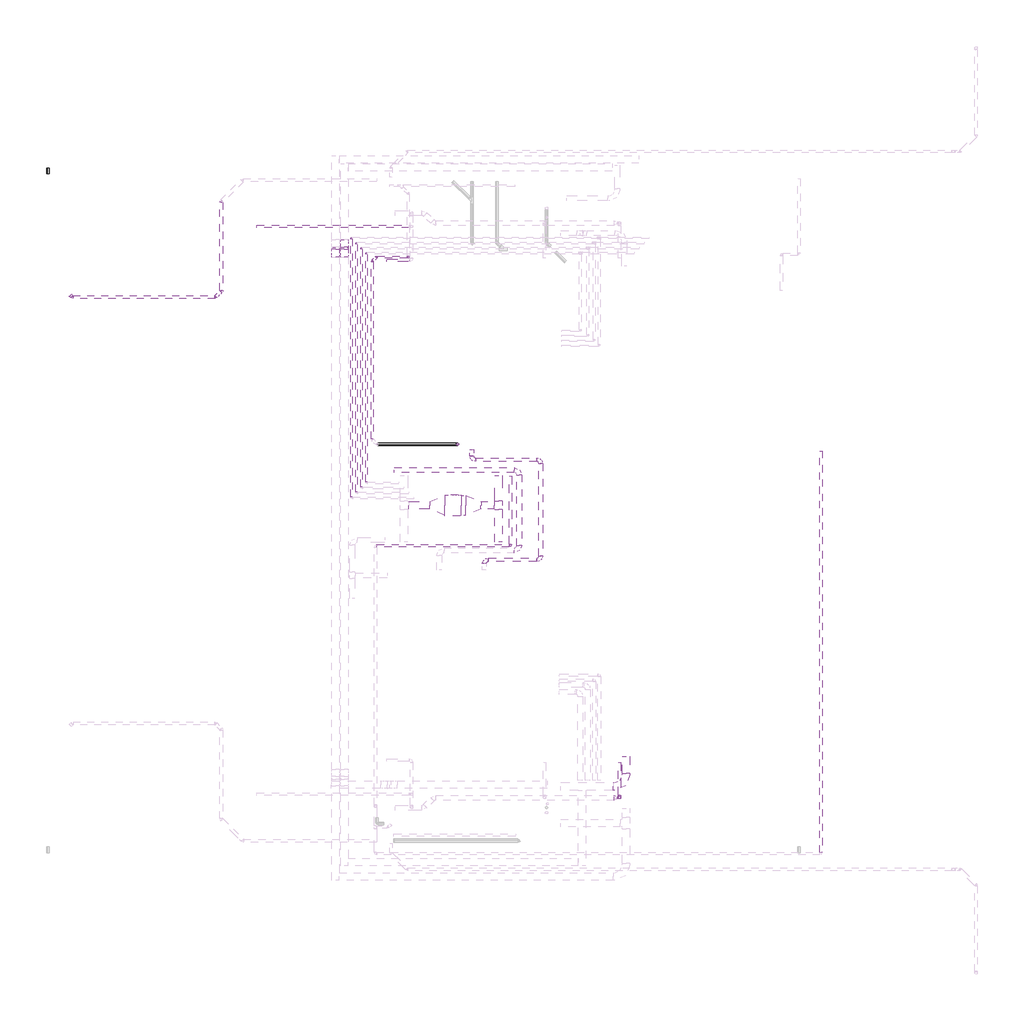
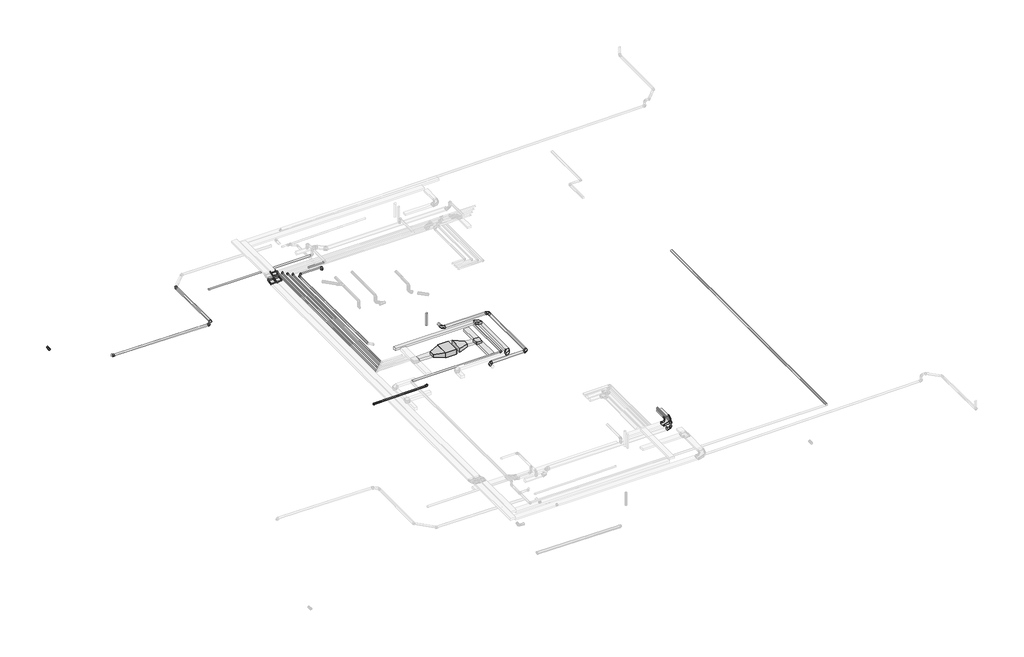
# One storey, part 3 of 5: 18 pipe segments, 15 duct segments, 14 pipe fittings, 12 duct fittings, 4 cable carrier fittings, 3 cable carrier segments, 1 proxy.
"""IFC4 building model written with IfcOpenShell, lengths in millimetres."""

from ifc_helpers import new_model, si_unit, point, frame, frame_2d, origin, place, context, project, spatial, polyline, circle_curve, trimmed, segment, composite_curve, outline, extrude, transform, mapped, element, save
from components import fc01_db58e849, m_codo_horizontal_de_canal_el_5b0e7b07, m_codo_vertical_exterior_de_canal_el_c4dc7364, m_codo_vertical_interior_de_canal_el_3f65be50, duct_fitting_9d984206, duct_fitting_e8ecb067, duct_fitting_4802cc83, ext_95de42ea, m_codo_rectangular_radio_apt_1_w_a605e9b7, m_codo_redondo_ext_1_d_fe658834, m_codo_redondo_ext_1_d_96ea52f9, pipe_fitting_b994c117, pipe_fitting_688cd524, pipe_fitting_a8c499ec, pipe_fitting_3a68447e, pipe_fitting_87aeffad, pipe_fitting_022dd2a5, pipe_fitting_850c79cb

model = new_model("IFC4")

# Units and contexts
model_context = context("Model", 3, world=origin())
ifc_project = project(units=[si_unit("LENGTHUNIT", "METRE", prefix="MILLI")], contexts=[model_context])

# Site, building, storey
site = spatial("IfcSite", under=ifc_project)
building = spatial("IfcBuilding", under=site)
storey = spatial("IfcBuildingStorey", under=building, Name="Nivell 01 P01_PP", Elevation=11160.0)

# Proxy
placement = place(None, origin())
fc01_shape = fc01_db58e849(model_context)
element("IfcBuildingElementProxy", 1, Name="ARC_MDL_ME_UI_FC_ConducteSostre : FC01", ObjectType="ARC_MDL_ME_UI_FC_ConducteSostre : FC01", at=placement, inside=storey, context=model_context, shape_type="MappedRepresentation", body=[
    mapped(fc01_shape, transform((9681.3112506, -4290.0827616, 14269.6198525), x_axis=(-5.108879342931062e-05, -0.9999999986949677, 0.0), y_axis=(0.9999999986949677, -5.108879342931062e-05, 0.0), z_axis=(0.0, 0.0, 1.0))),
])

# Cable carrier fittings
m_codo_horizontal_de_canal_el_shape = m_codo_horizontal_de_canal_el_5b0e7b07(model_context)
element("IfcCableCarrierFitting", 2, ObjectType="M_Codo horizontal de canal : EL", at=placement, inside=storey, context=model_context, shape_type="MappedRepresentation", body=[
    mapped(m_codo_horizontal_de_canal_el_shape, transform((16614.6624278, -15521.1304394, 14260.0), x_axis=(1.0, 0.0, 0.0), y_axis=(0.0, 1.0, 0.0), z_axis=(0.0, 0.0, 1.0))),
])
m_codo_vertical_exterior_de_canal_el_shape = m_codo_vertical_exterior_de_canal_el_c4dc7364(model_context)
element("IfcCableCarrierFitting", 3, ObjectType="M_Codo vertical exterior de canal : EL", at=placement, inside=storey, context=model_context, shape_type="MappedRepresentation", body=[
    mapped(m_codo_vertical_exterior_de_canal_el_shape, transform((5357.0671065, 6149.6159499, 14460.0), x_axis=(0.0, -1.0, 0.0), y_axis=(0.0, 0.0, -1.0), z_axis=(1.0, 0.0, 0.0))),
])
m_codo_vertical_interior_de_canal_el_shape = m_codo_vertical_interior_de_canal_el_3f65be50(model_context)
element("IfcCableCarrierFitting", 4, ObjectType="M_Codo vertical interior de canal : EL", at=placement, inside=storey, context=model_context, shape_type="MappedRepresentation", body=[
    mapped(m_codo_vertical_interior_de_canal_el_shape, transform((5357.0671065, 5803.2057884, 14260.0), x_axis=(0.0, -0.8660254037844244, -0.5000000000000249), y_axis=(0.0, -0.5000000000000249, 0.8660254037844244), z_axis=(-1.0, 0.0, 0.0))),
])
element("IfcCableCarrierFitting", 5, ObjectType="M_Codo vertical interior de canal : EL", at=placement, inside=storey, context=model_context, shape_type="MappedRepresentation", body=[
    mapped(m_codo_vertical_interior_de_canal_el_shape, transform((5008.2381883, 5803.2057884, 14260.0), x_axis=(0.0, -0.8660254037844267, -0.5000000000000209), y_axis=(0.0, -0.5000000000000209, 0.8660254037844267), z_axis=(-1.0, 0.0, 0.0))),
])

# Cable carrier segments
element("IfcCableCarrierSegment", 6, ObjectType="EL", at=placement, inside=storey, context=model_context, shape_type="SweptSolid", body=[
    extrude(outline(polyline([(16464.6624278, -14321.1304394), (16764.6624278, -14321.1304394), (16764.6624278, -14996.1304394), (16464.6624278, -14996.1304394), (16464.6624278, -14321.1304394)])), frame((0.0, 0.0, 14210.0), z_axis=(0.0, 0.0, 1.0), x_axis=(1.0, 0.0, 0.0)), (0.0, 0.0, 1.0), 100.0),
])
element("IfcCableCarrierSegment", 7, ObjectType="EL", at=placement, inside=storey, context=model_context, shape_type="SweptSolid", body=[
    extrude(outline(polyline([(0.0, -300.0), (0.0, 0.0), (62.4355653, 0.0), (62.4355653, -300.0), (0.0, -300.0)])), frame((5507.0671065, 6028.446262, 14332.3076211), z_axis=(0.0, -0.5000000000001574, 0.8660254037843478), x_axis=(0.0, -0.8660254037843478, -0.5000000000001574)), (0.0, 0.0, 1.0), 100.0),
])
element("IfcCableCarrierSegment", 8, ObjectType="EL", at=placement, inside=storey, context=model_context, shape_type="SweptSolid", body=[
    extrude(outline(polyline([(0.0, -300.0), (0.0, 0.0), (62.4355653, 0.0), (62.4355653, -300.0), (0.0, -300.0)])), frame((5158.2381883, 6028.446262, 14332.3076211), z_axis=(0.0, -0.4999999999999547, 0.8660254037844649), x_axis=(0.0, -0.8660254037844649, -0.4999999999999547)), (0.0, 0.0, 1.0), 100.0),
])

# Duct fittings
duct_fitting_shape = duct_fitting_9d984206(model_context)
element("IfcDuctFitting", 9, ObjectType="M_Transición redonda - Ángulo : EXT_45 graus", at=placement, inside=storey, context=model_context, shape_type="MappedRepresentation", body=[
    mapped(duct_fitting_shape, transform((16250.5896993, -15972.9719502, 14240.0), x_axis=(-1.0, 0.0, 0.0), y_axis=(0.0, -1.0, 0.0), z_axis=(0.0, 0.0, 1.0))),
])
duct_fitting_2_shape = duct_fitting_e8ecb067(model_context)
element("IfcDuctFitting", 10, ObjectType="M_Transición rectangular - Ángulo : EXT_45 graus", at=placement, inside=storey, context=model_context, shape_type="MappedRepresentation", body=[
    mapped(duct_fitting_2_shape, transform((9366.311258, -4289.9287549, 14427.1198525), x_axis=(-0.9999999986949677, 5.108879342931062e-05, 0.0), y_axis=(-5.108879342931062e-05, -0.9999999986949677, 0.0), z_axis=(0.0, 0.0, 1.0))),
])
duct_fitting_3_shape = duct_fitting_4802cc83(model_context)
element("IfcDuctFitting", 11, ObjectType="M_Transición rectangular - Ángulo : EXT_45 graus", at=placement, inside=storey, context=model_context, shape_type="MappedRepresentation", body=[
    mapped(duct_fitting_3_shape, transform((10216.57728, -4290.2068024, 14427.1198525), x_axis=(0.9999999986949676, -5.1088793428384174e-05, 0.0), y_axis=(5.1088793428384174e-05, 0.9999999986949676, 0.0), z_axis=(0.0, 0.0, 1.0))),
])
ext_shape = ext_95de42ea(model_context)
element("IfcDuctFitting", 12, ObjectType="M_Te rectangular : EXT", at=placement, inside=storey, context=model_context, shape_type="MappedRepresentation", body=[
    mapped(ext_shape, transform((11523.311255, -4289.9524808, 14325.8305344), x_axis=(0.0, -1.0, 0.0), y_axis=(1.0, 0.0, 0.0), z_axis=(0.0, 0.0, 1.0))),
])
m_codo_rectangular_radio_apt_1_w_shape = m_codo_rectangular_radio_apt_1_w_a605e9b7(model_context)
element("IfcDuctFitting", 13, ObjectType="M_Codo rectangular - Radio : EXT_1 W", at=placement, inside=storey, context=model_context, shape_type="MappedRepresentation", body=[
    mapped(m_codo_rectangular_radio_apt_1_w_shape, transform((12351.1206995, -6088.8306037, 14435.0), x_axis=(1.0, 0.0, 0.0), y_axis=(0.0, 1.0, 0.0), z_axis=(0.0, 0.0, 1.0))),
])
element("IfcDuctFitting", 14, ObjectType="M_Codo rectangular - Radio : EXT_1 W", at=placement, inside=storey, context=model_context, shape_type="MappedRepresentation", body=[
    mapped(m_codo_rectangular_radio_apt_1_w_shape, transform((12351.1206995, -2888.8306037, 14435.0), x_axis=(0.0, 1.0, 0.0), y_axis=(-1.0, 0.0, 0.0), z_axis=(0.0, 0.0, 1.0))),
])
m_codo_redondo_ext_1_d_shape = m_codo_redondo_ext_1_d_fe658834(model_context)
element("IfcDuctFitting", 15, ObjectType="M_Codo redondo : EXT_1 D", at=placement, inside=storey, context=model_context, shape_type="MappedRepresentation", body=[
    mapped(m_codo_redondo_ext_1_d_shape, transform((10951.1206995, -6468.8306037, 14435.0), x_axis=(-1.0, 0.0, 0.0), y_axis=(0.0, -1.0, 0.0), z_axis=(0.0, 0.0, 1.0))),
])
element("IfcDuctFitting", 16, ObjectType="M_Codo redondo : EXT_1 D", at=placement, inside=storey, context=model_context, shape_type="MappedRepresentation", body=[
    mapped(m_codo_redondo_ext_1_d_shape, transform((13201.1206995, -6468.8306037, 14435.0), x_axis=(1.0, 0.0, 0.0), y_axis=(0.0, 1.0, 0.0), z_axis=(0.0, 0.0, 1.0))),
])
element("IfcDuctFitting", 17, ObjectType="M_Codo redondo : EXT_1 D", at=placement, inside=storey, context=model_context, shape_type="MappedRepresentation", body=[
    mapped(m_codo_redondo_ext_1_d_shape, transform((13201.1206995, -2468.8306037, 14435.0), x_axis=(0.0, 1.0, 0.0), y_axis=(-1.0, 0.0, 0.0), z_axis=(0.0, 0.0, 1.0))),
])
element("IfcDuctFitting", 18, ObjectType="M_Codo redondo : EXT_1 D", at=placement, inside=storey, context=model_context, shape_type="MappedRepresentation", body=[
    mapped(m_codo_redondo_ext_1_d_shape, transform((10451.1206995, -2468.8306037, 14435.0), x_axis=(0.0, -1.0, 0.0), y_axis=(1.0, 0.0, 0.0), z_axis=(0.0, 0.0, 1.0))),
])
m_codo_redondo_ext_1_d_2_shape = m_codo_redondo_ext_1_d_96ea52f9(model_context)
element("IfcDuctFitting", 19, ObjectType="M_Codo redondo : EXT_1 D", at=placement, inside=storey, context=model_context, shape_type="MappedRepresentation", body=[
    mapped(m_codo_redondo_ext_1_d_2_shape, transform((16350.5896993, -15972.9719502, 14610.0), x_axis=(0.0, -1.0, 0.0), y_axis=(0.0, 0.0, 1.0), z_axis=(-1.0, 0.0, 0.0))),
])
element("IfcDuctFitting", 20, ObjectType="M_Codo redondo : EXT_1 D", at=placement, inside=storey, context=model_context, shape_type="MappedRepresentation", body=[
    mapped(m_codo_redondo_ext_1_d_2_shape, transform((16350.5896993, -15972.9719502, 14240.0), x_axis=(0.0, 0.0, -1.0), y_axis=(1.0, 0.0, 0.0), z_axis=(0.0, -1.0, 0.0))),
])

# Duct segments
element("IfcDuctSegment", 21, ObjectType="EXT_Fibra de vidre rígida", at=placement, inside=storey, context=model_context, shape_type="SweptSolid", body=[
    extrude(outline(polyline([(12251.1206995, -3088.8306037), (12451.1206995, -3088.8306037), (12451.1206995, -5888.8306037), (12251.1206995, -5888.8306037), (12251.1206995, -3088.8306037)])), frame((0.0, 0.0, 14360.0), z_axis=(0.0, 0.0, 1.0), x_axis=(1.0, 0.0, 0.0)), (0.0, 0.0, 1.0), 150.0),
])
element("IfcDuctSegment", 22, ObjectType="EXT_Fibra de vidre rígida", at=placement, inside=storey, context=model_context, shape_type="SweptSolid", body=[
    extrude(outline(polyline([(7351.1206995, -2988.8306037), (7351.1206995, -2788.8306037), (12151.1206995, -2788.8306037), (12151.1206995, -2988.8306037), (7351.1206995, -2988.8306037)])), frame((0.0, 0.0, 14360.0), z_axis=(0.0, 0.0, 1.0), x_axis=(1.0, 0.0, 0.0)), (0.0, 0.0, 1.0), 150.0),
])
element("IfcDuctSegment", 23, ObjectType="EXT_Acer Galvanitzat - Rígid", at=placement, inside=storey, context=model_context, shape_type="SweptSolid", body=[
    extrude(outline(composite_curve([segment(trimmed(circle_curve(frame_2d((-6468.8306037, 14435.0)), 75.0), [point((-6543.8306037, 14435.0))], [point((-6468.8306037, 14510.0))], False, "CARTESIAN"), True, "CONTINUOUS"), segment(trimmed(circle_curve(frame_2d((-6468.8306037, 14435.0)), 75.0), [point((-6468.8306037, 14510.0))], [point((-6393.8306037, 14435.0))], False, "CARTESIAN"), True, "CONTINUOUS"), segment(trimmed(circle_curve(frame_2d((-6468.8306037, 14435.0)), 75.0), [point((-6393.8306037, 14435.0))], [point((-6468.8306037, 14360.0))], False, "CARTESIAN"), True, "CONTINUOUS"), segment(trimmed(circle_curve(frame_2d((-6468.8306037, 14435.0)), 75.0), [point((-6468.8306037, 14360.0))], [point((-6543.8306037, 14435.0))], False, "CARTESIAN"), True, "CONTINUOUS")], self_intersect=False)), frame((11101.1206995, 0.0, 0.0), z_axis=(1.0, 0.0, 0.0), x_axis=(0.0, 1.0, 0.0)), (0.0, 0.0, 1.0), 1950.0),
])
element("IfcDuctSegment", 24, ObjectType="EXT_Acer Galvanitzat - Rígid", at=placement, inside=storey, context=model_context, shape_type="SweptSolid", body=[
    extrude(outline(composite_curve([segment(trimmed(circle_curve(frame_2d((14435.0, 13201.1206995)), 75.0), [point((14435.0, 13276.1206995))], [point((14510.0, 13201.1206995))], False, "CARTESIAN"), True, "CONTINUOUS"), segment(trimmed(circle_curve(frame_2d((14435.0, 13201.1206995)), 75.0), [point((14510.0, 13201.1206995))], [point((14435.0, 13126.1206995))], False, "CARTESIAN"), True, "CONTINUOUS"), segment(trimmed(circle_curve(frame_2d((14435.0, 13201.1206995)), 75.0), [point((14435.0, 13126.1206995))], [point((14360.0, 13201.1206995))], False, "CARTESIAN"), True, "CONTINUOUS"), segment(trimmed(circle_curve(frame_2d((14435.0, 13201.1206995)), 75.0), [point((14360.0, 13201.1206995))], [point((14435.0, 13276.1206995))], False, "CARTESIAN"), True, "CONTINUOUS")], self_intersect=False)), frame((0.0, -6318.8306037, 0.0), z_axis=(0.0, 1.0, 0.0), x_axis=(0.0, 0.0, 1.0)), (0.0, 0.0, 1.0), 3700.0),
])
element("IfcDuctSegment", 25, ObjectType="EXT_Acer Galvanitzat - Rígid", at=placement, inside=storey, context=model_context, shape_type="SweptSolid", body=[
    extrude(outline(composite_curve([segment(trimmed(circle_curve(frame_2d((-2468.8306037, 14435.0)), 75.0), [point((-2393.8306037, 14435.0))], [point((-2468.8306037, 14360.0))], False, "CARTESIAN"), True, "CONTINUOUS"), segment(trimmed(circle_curve(frame_2d((-2468.8306037, 14435.0)), 75.0), [point((-2468.8306037, 14360.0))], [point((-2543.8306037, 14435.0))], False, "CARTESIAN"), True, "CONTINUOUS"), segment(trimmed(circle_curve(frame_2d((-2468.8306037, 14435.0)), 75.0), [point((-2543.8306037, 14435.0))], [point((-2468.8306037, 14510.0))], False, "CARTESIAN"), True, "CONTINUOUS"), segment(trimmed(circle_curve(frame_2d((-2468.8306037, 14435.0)), 75.0), [point((-2468.8306037, 14510.0))], [point((-2393.8306037, 14435.0))], False, "CARTESIAN"), True, "CONTINUOUS")], self_intersect=False)), frame((10601.1206995, 0.0, 0.0), z_axis=(1.0, 0.0, 0.0), x_axis=(0.0, 1.0, 0.0)), (0.0, 0.0, 1.0), 2450.0),
])
element("IfcDuctSegment", 26, ObjectType="EXT_Acer Galvanitzat - Rígid", at=placement, inside=storey, context=model_context, shape_type="SweptSolid", body=[
    extrude(outline(composite_curve([segment(trimmed(circle_curve(frame_2d((14435.0, 10451.1206995)), 75.0), [point((14435.0, 10526.1206995))], [point((14510.0, 10451.1206995))], False, "CARTESIAN"), True, "CONTINUOUS"), segment(trimmed(circle_curve(frame_2d((14435.0, 10451.1206995)), 75.0), [point((14510.0, 10451.1206995))], [point((14435.0, 10376.1206995))], False, "CARTESIAN"), True, "CONTINUOUS"), segment(trimmed(circle_curve(frame_2d((14435.0, 10451.1206995)), 75.0), [point((14435.0, 10376.1206995))], [point((14360.0, 10451.1206995))], False, "CARTESIAN"), True, "CONTINUOUS"), segment(trimmed(circle_curve(frame_2d((14435.0, 10451.1206995)), 75.0), [point((14360.0, 10451.1206995))], [point((14435.0, 10526.1206995))], False, "CARTESIAN"), True, "CONTINUOUS")], self_intersect=False)), frame((0.0, -2318.8306037, 0.0), z_axis=(0.0, 1.0, 0.0), x_axis=(0.0, 0.0, 1.0)), (0.0, 0.0, 1.0), 250.0),
])
element("IfcDuctSegment", 27, ObjectType="EXT_Acer Galvanitzat - Rígid", at=placement, inside=storey, context=model_context, shape_type="SweptSolid", body=[
    extrude(outline(composite_curve([segment(trimmed(circle_curve(frame_2d((14610.0, 16350.5896993)), 50.0), [point((14610.0, 16400.5896993))], [point((14660.0, 16350.5896993))], False, "CARTESIAN"), True, "CONTINUOUS"), segment(trimmed(circle_curve(frame_2d((14610.0, 16350.5896993)), 50.0), [point((14660.0, 16350.5896993))], [point((14610.0, 16300.5896993))], False, "CARTESIAN"), True, "CONTINUOUS"), segment(trimmed(circle_curve(frame_2d((14610.0, 16350.5896993)), 50.0), [point((14610.0, 16300.5896993))], [point((14560.0, 16350.5896993))], False, "CARTESIAN"), True, "CONTINUOUS"), segment(trimmed(circle_curve(frame_2d((14610.0, 16350.5896993)), 50.0), [point((14560.0, 16350.5896993))], [point((14610.0, 16400.5896993))], False, "CARTESIAN"), True, "CONTINUOUS")], self_intersect=False)), frame((0.0, -15872.9719502, 0.0), z_axis=(0.0, 1.0, 0.0), x_axis=(0.0, 0.0, 1.0)), (0.0, 0.0, 1.0), 1301.48805),
])
element("IfcDuctSegment", 28, ObjectType="EXT_Acer Galvanitzat - Rígid", at=placement, inside=storey, context=model_context, shape_type="SweptSolid", body=[
    extrude(outline(composite_curve([segment(trimmed(circle_curve(frame_2d((16350.5896993, -15972.9719502)), 50.0), [point((16400.5896993, -15972.9719502))], [point((16350.5896993, -16022.9719502))], False, "CARTESIAN"), True, "CONTINUOUS"), segment(trimmed(circle_curve(frame_2d((16350.5896993, -15972.9719502)), 50.0), [point((16350.5896993, -16022.9719502))], [point((16300.5896993, -15972.9719502))], False, "CARTESIAN"), True, "CONTINUOUS"), segment(trimmed(circle_curve(frame_2d((16350.5896993, -15972.9719502)), 50.0), [point((16300.5896993, -15972.9719502))], [point((16350.5896993, -15922.9719502))], False, "CARTESIAN"), True, "CONTINUOUS"), segment(trimmed(circle_curve(frame_2d((16350.5896993, -15972.9719502)), 50.0), [point((16350.5896993, -15922.9719502))], [point((16400.5896993, -15972.9719502))], False, "CARTESIAN"), True, "CONTINUOUS")], self_intersect=False)), frame((0.0, 0.0, 14340.0), z_axis=(0.0, 0.0, 1.0), x_axis=(1.0, 0.0, 0.0)), (0.0, 0.0, 1.0), 170.0),
])
element("IfcDuctSegment", 29, ObjectType="EXT_Acer Galvanitzat - Rígid", at=placement, inside=storey, context=model_context, shape_type="SweptSolid", body=[
    extrude(outline(composite_curve([segment(trimmed(circle_curve(frame_2d((5490.7319202, 14610.0)), 50.0), [point((5440.7319202, 14610.0))], [point((5490.7319202, 14660.0))], False, "CARTESIAN"), True, "CONTINUOUS"), segment(trimmed(circle_curve(frame_2d((5490.7319202, 14610.0)), 50.0), [point((5490.7319202, 14660.0))], [point((5540.7319202, 14610.0))], False, "CARTESIAN"), True, "CONTINUOUS"), segment(trimmed(circle_curve(frame_2d((5490.7319202, 14610.0)), 50.0), [point((5540.7319202, 14610.0))], [point((5490.7319202, 14560.0))], False, "CARTESIAN"), True, "CONTINUOUS"), segment(trimmed(circle_curve(frame_2d((5490.7319202, 14610.0)), 50.0), [point((5490.7319202, 14560.0))], [point((5440.7319202, 14610.0))], False, "CARTESIAN"), True, "CONTINUOUS")], self_intersect=False)), frame((7050.5896993, 0.0, 0.0), z_axis=(1.0, 0.0, 0.0), x_axis=(0.0, 1.0, 0.0)), (0.0, 0.0, 1.0), 900.0),
])
element("IfcDuctSegment", 30, ObjectType="EXT_Acer Galvanitzat - Rígid", at=placement, inside=storey, context=model_context, shape_type="SweptSolid", body=[
    extrude(outline(composite_curve([segment(trimmed(circle_curve(frame_2d((6856.5337216, 14210.0)), 50.0), [point((6906.5337216, 14210.0))], [point((6856.5337216, 14160.0))], False, "CARTESIAN"), True, "CONTINUOUS"), segment(trimmed(circle_curve(frame_2d((6856.5337216, 14210.0)), 50.0), [point((6856.5337216, 14160.0))], [point((6806.5337216, 14210.0))], False, "CARTESIAN"), True, "CONTINUOUS"), segment(trimmed(circle_curve(frame_2d((6856.5337216, 14210.0)), 50.0), [point((6806.5337216, 14210.0))], [point((6856.5337216, 14260.0))], False, "CARTESIAN"), True, "CONTINUOUS"), segment(trimmed(circle_curve(frame_2d((6856.5337216, 14210.0)), 50.0), [point((6856.5337216, 14260.0))], [point((6906.5337216, 14210.0))], False, "CARTESIAN"), True, "CONTINUOUS")], self_intersect=False)), frame((1850.5896993, 0.0, 0.0), z_axis=(1.0, 0.0, 0.0), x_axis=(0.0, 1.0, 0.0)), (0.0, 0.0, 1.0), 6100.0),
])
element("IfcDuctSegment", 31, ObjectType="EXT_Planxa galvanitzada", at=placement, inside=storey, context=model_context, shape_type="SweptSolid", body=[
    extrude(outline(polyline([(7921.1541547, -4439.9850919), (7921.1694813, -4139.9850923), (8762.765525, -4140.0280884), (8762.7501984, -4440.028088), (7921.1541547, -4439.9850919)])), frame((0.0, 0.0, 14352.1198525), z_axis=(0.0, 0.0, 1.0), x_axis=(1.0, 0.0, 0.0)), (0.0, 0.0, 1.0), 150.0),
])
element("IfcDuctSegment", 32, ObjectType="EXT_Planxa galvanitzada", at=placement, inside=storey, context=model_context, shape_type="SweptSolid", body=[
    extrude(outline(polyline([(0.0, -300.0000001), (0.0, 0.0), (530.6650356, 0.0), (530.6650356, -300.0000001), (0.0, -300.0000001)])), frame((11341.1284595, -4439.9556573, 14251.1816596), z_axis=(0.09665101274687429, 4.254610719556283e-05, 0.9953183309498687), x_axis=(-0.9953182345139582, -0.00043814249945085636, 0.09665102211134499)), (0.0, 0.0, 1.0), 150.0),
])
element("IfcDuctSegment", 33, ObjectType="EXT_Planxa galvanitzada", at=placement, inside=storey, context=model_context, shape_type="SweptSolid", body=[
    extrude(outline(polyline([(11673.311255, -4114.9524808), (11373.311255, -4114.9524808), (11373.311255, -3089.9878585), (11673.311255, -3089.9878585), (11673.311255, -4114.9524808)])), frame((0.0, 0.0, 14250.8305344), z_axis=(0.0, 0.0, 1.0), x_axis=(1.0, 0.0, 0.0)), (0.0, 0.0, 1.0), 150.0),
])
element("IfcDuctSegment", 34, ObjectType="EXT_Planxa galvanitzada", at=placement, inside=storey, context=model_context, shape_type="SweptSolid", body=[
    extrude(outline(polyline([(11373.311255, -4464.9524808), (11673.311255, -4464.9524808), (11673.311255, -5765.0566725), (11373.311255, -5765.0566725), (11373.311255, -4464.9524808)])), frame((0.0, 0.0, 14250.8305344), z_axis=(0.0, 0.0, 1.0), x_axis=(1.0, 0.0, 0.0)), (0.0, 0.0, 1.0), 150.0),
])
element("IfcDuctSegment", 35, ObjectType="EXT_Planxa galvanitzada", at=placement, inside=storey, context=model_context, shape_type="SweptSolid", body=[
    extrude(outline(polyline([(10023.2908097, -4690.1969281), (10023.3316807, -3890.1969292), (10216.5977155, -3890.2068029), (10216.5568445, -4690.2068019), (10023.2908097, -4690.1969281)])), frame((0.0, 0.0, 14289.6198525), z_axis=(0.0, 0.0, 1.0), x_axis=(1.0, 0.0, 0.0)), (0.0, 0.0, 1.0), 275.0),
])

# Pipe fittings
pipe_fitting_shape = pipe_fitting_b994c117(model_context)
element("IfcPipeFitting", 36, ObjectType="M_Codo - Genérico : Estándar", at=placement, inside=storey, context=model_context, shape_type="MappedRepresentation", body=[
    mapped(pipe_fitting_shape, transform((448.2074284, 7855.7589772, 14229.5391455), x_axis=(-0.7070714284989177, -0.7070714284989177, 0.00999950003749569), y_axis=(0.7071300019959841, -0.7070714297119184, 0.004141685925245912), z_axis=(0.0041418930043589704, 0.009999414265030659, 0.9999414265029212))),
])
element("IfcPipeFitting", 37, ObjectType="M_Codo - Genérico : Estándar", at=placement, inside=storey, context=model_context, shape_type="MappedRepresentation", body=[
    mapped(pipe_fitting_shape, transform((448.2074284, 4265.7736008, 14265.4389993), x_axis=(0.7070714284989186, 0.7070714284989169, -0.009999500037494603), y_axis=(-0.7071300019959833, 0.707071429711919, -0.0041416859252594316), z_axis=(0.0041418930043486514, 0.009999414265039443, 0.9999414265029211))),
])
element("IfcPipeFitting", 38, ObjectType="M_Codo - Genérico : Estándar", at=placement, inside=storey, context=model_context, shape_type="MappedRepresentation", body=[
    mapped(pipe_fitting_shape, transform((207.7911228, 4025.3572952, 14268.8389993), x_axis=(0.9999500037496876, 0.0, -0.009999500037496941), y_axis=(-4.141685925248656e-05, 0.9999914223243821, -0.004141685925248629), z_axis=(0.009999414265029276, 0.004141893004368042, 0.9999414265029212))),
])
element("IfcPipeFitting", 39, ObjectType="M_Codo - Genérico : Estándar", at=placement, inside=storey, context=model_context, shape_type="MappedRepresentation", body=[
    mapped(pipe_fitting_shape, transform((-5505.1029792, 4025.3572952, 14325.9679403), x_axis=(0.7070714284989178, -0.7070714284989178, -0.009999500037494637), y_axis=(0.7070714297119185, 0.7071300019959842, -0.004141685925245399), z_axis=(0.00999941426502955, -0.004141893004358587, 0.9999414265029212))),
])
pipe_fitting_2_shape = pipe_fitting_688cd524(model_context)
element("IfcPipeFitting", 40, ObjectType="M_Codo - Genérico : Estándar", at=placement, inside=storey, context=model_context, shape_type="MappedRepresentation", body=[
    mapped(pipe_fitting_2_shape, transform((7914.0895519, 5631.0053732, 14242.1394404), x_axis=(0.9999500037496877, 0.0, -0.00999950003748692), y_axis=(-0.00999950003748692, 0.0, -0.9999500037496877), z_axis=(0.0, 1.0, 0.0))),
])
element("IfcPipeFitting", 41, ObjectType="M_Codo - Genérico : Estándar", at=placement, inside=storey, context=model_context, shape_type="MappedRepresentation", body=[
    mapped(pipe_fitting_2_shape, transform((7914.0627734, 5631.0105829, 14090.0), x_axis=(0.0, 0.0, -1.0), y_axis=(0.0, 1.0, 0.0), z_axis=(1.0, 0.0, 0.0))),
])
pipe_fitting_3_shape = pipe_fitting_a8c499ec(model_context)
element("IfcPipeFitting", 42, ObjectType="M_Codo - Genérico : Estándar", at=placement, inside=storey, context=model_context, shape_type="MappedRepresentation", body=[
    mapped(pipe_fitting_3_shape, transform((9883.2033035, -1851.5551846, 10581.4175478), x_axis=(0.9999500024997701, 4.9997101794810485e-05, 0.009999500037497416), y_axis=(-0.009999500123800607, 1.476482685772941e-06, 0.9999500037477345), z_axis=(4.997983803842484e-05, -0.9999999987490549, 1.976354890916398e-06))),
])
pipe_fitting_4_shape = pipe_fitting_3a68447e(model_context)
element("IfcPipeFitting", 43, ObjectType="M_Codo - Genérico : Estándar", at=placement, inside=storey, context=model_context, shape_type="MappedRepresentation", body=[
    mapped(pipe_fitting_4_shape, transform((5645.7381883, 6394.2427547, 14272.5), x_axis=(-1.0, 0.0, 0.0), y_axis=(0.0, -1.0, 0.0), z_axis=(0.0, 0.0, 1.0))),
])
element("IfcPipeFitting", 44, ObjectType="M_Codo - Genérico : Estándar", at=placement, inside=storey, context=model_context, shape_type="MappedRepresentation", body=[
    mapped(pipe_fitting_4_shape, transform((5845.7381883, 6194.2427547, 14272.5), x_axis=(-1.0, 0.0, 0.0), y_axis=(0.0, -1.0, 0.0), z_axis=(0.0, 0.0, 1.0))),
])
element("IfcPipeFitting", 45, ObjectType="M_Codo - Genérico : Estándar", at=placement, inside=storey, context=model_context, shape_type="MappedRepresentation", body=[
    mapped(pipe_fitting_4_shape, transform((6045.7381883, 5994.2427547, 14272.5), x_axis=(-1.0, 0.0, 0.0), y_axis=(0.0, -1.0, 0.0), z_axis=(0.0, 0.0, 1.0))),
])
element("IfcPipeFitting", 46, ObjectType="M_Codo - Genérico : Estándar", at=placement, inside=storey, context=model_context, shape_type="MappedRepresentation", body=[
    mapped(pipe_fitting_4_shape, transform((6245.7381883, 5794.2427547, 14272.5), x_axis=(-1.0, 0.0, 0.0), y_axis=(0.0, -1.0, 0.0), z_axis=(0.0, 0.0, 1.0))),
])
pipe_fitting_5_shape = pipe_fitting_87aeffad(model_context)
element("IfcPipeFitting", 47, ObjectType="M_Codo - Genérico : Estándar", at=placement, inside=storey, context=model_context, shape_type="MappedRepresentation", body=[
    mapped(pipe_fitting_5_shape, transform((11998.0330075, -5912.8731458, 14460.8), x_axis=(1.0, 0.0, 0.0), y_axis=(0.0, 1.0, 0.0), z_axis=(0.0, 0.0, 1.0))),
])
pipe_fitting_6_shape = pipe_fitting_022dd2a5(model_context)
element("IfcPipeFitting", 48, ObjectType="M_Codo - Genérico : Estándar", at=placement, inside=storey, context=model_context, shape_type="MappedRepresentation", body=[
    mapped(pipe_fitting_6_shape, transform((6477.7328371, 5463.7392412, 14257.0746656), x_axis=(-0.7045209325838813, -0.7096305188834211, 0.008647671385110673), y_axis=(0.7096797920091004, -0.7045030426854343, 0.005482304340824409), z_axis=(0.002201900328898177, 0.009999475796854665, 0.9999475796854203))),
])
pipe_fitting_7_shape = pipe_fitting_850c79cb(model_context)
element("IfcPipeFitting", 49, ObjectType="M_Codo - Genérico : Estándar", at=placement, inside=storey, context=model_context, shape_type="MappedRepresentation", body=[
    mapped(pipe_fitting_7_shape, transform((6643.7930903, 5631.0053732, 14254.842405), x_axis=(-0.9999500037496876, 0.0, 0.00999950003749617), y_axis=(2.257932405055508e-05, -0.9999974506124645, 0.002257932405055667), z_axis=(0.009999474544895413, 0.0022580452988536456, 0.9999474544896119))),
])

# Pipe segments
element("IfcPipeSegment", 50, ObjectType="PVC_Baixant", at=placement, inside=storey, context=model_context, shape_type="SweptSolid", body=[
    extrude(outline(composite_curve([segment(trimmed(circle_curve(frame_2d((0.0, 45.0)), 45.0), [point((-45.0, 45.0))], [point((0.0, 90.0))], False, "CARTESIAN"), True, "CONTINUOUS"), segment(trimmed(circle_curve(frame_2d((0.0, 45.0)), 45.0), [point((0.0, 90.0))], [point((45.0, 45.0))], False, "CARTESIAN"), True, "CONTINUOUS"), segment(trimmed(circle_curve(frame_2d((0.0, 45.0)), 45.0), [point((45.0, 45.0))], [point((0.0, 0.0))], False, "CARTESIAN"), True, "CONTINUOUS"), segment(trimmed(circle_curve(frame_2d((0.0, 45.0)), 45.0), [point((0.0, 0.0))], [point((-45.0, 45.0))], False, "CARTESIAN"), True, "CONTINUOUS")], self_intersect=False)), frame((9883.187367, -1897.00536, 14415.0680666), z_axis=(-7.986001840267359e-06, -6.728992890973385e-07, 0.9999999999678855), x_axis=(0.999999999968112, -5.373479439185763e-12, 7.986001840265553e-06)), (0.0, 0.0, 1.0), 744.9319209),
])
element("IfcPipeSegment", 51, ObjectType="PPR_CLI_Aquatherm Blue Pipe", at=placement, inside=storey, context=model_context, shape_type="SweptSolid", body=[
    extrude(outline(composite_curve([segment(trimmed(circle_curve(frame_2d((14272.5, 6245.7381883)), 37.5), [point((14272.5, 6283.2381883))], [point((14310.0, 6245.7381883))], False, "CARTESIAN"), True, "CONTINUOUS"), segment(trimmed(circle_curve(frame_2d((14272.5, 6245.7381883)), 37.5), [point((14310.0, 6245.7381883))], [point((14272.5, 6208.2381883))], False, "CARTESIAN"), True, "CONTINUOUS"), segment(trimmed(circle_curve(frame_2d((14272.5, 6245.7381883)), 37.5), [point((14272.5, 6208.2381883))], [point((14235.0, 6245.7381883))], False, "CARTESIAN"), True, "CONTINUOUS"), segment(trimmed(circle_curve(frame_2d((14272.5, 6245.7381883)), 37.5), [point((14235.0, 6245.7381883))], [point((14272.5, 6283.2381883))], False, "CARTESIAN"), True, "CONTINUOUS")], self_intersect=False)), frame((0.0, -3349.4878722, 0.0), z_axis=(0.0, 1.0, 0.0), x_axis=(0.0, 0.0, 1.0)), (0.0, 0.0, 1.0), 9098.2931269),
])
element("IfcPipeSegment", 52, ObjectType="PPR_CLI_Aquatherm Blue Pipe", at=placement, inside=storey, context=model_context, shape_type="SweptSolid", body=[
    extrude(outline(composite_curve([segment(trimmed(circle_curve(frame_2d((14272.5, 6045.7381883)), 37.5), [point((14272.5, 6083.2381883))], [point((14310.0, 6045.7381883))], False, "CARTESIAN"), True, "CONTINUOUS"), segment(trimmed(circle_curve(frame_2d((14272.5, 6045.7381883)), 37.5), [point((14310.0, 6045.7381883))], [point((14272.5, 6008.2381883))], False, "CARTESIAN"), True, "CONTINUOUS"), segment(trimmed(circle_curve(frame_2d((14272.5, 6045.7381883)), 37.5), [point((14272.5, 6008.2381883))], [point((14235.0, 6045.7381883))], False, "CARTESIAN"), True, "CONTINUOUS"), segment(trimmed(circle_curve(frame_2d((14272.5, 6045.7381883)), 37.5), [point((14235.0, 6045.7381883))], [point((14272.5, 6083.2381883))], False, "CARTESIAN"), True, "CONTINUOUS")], self_intersect=False)), frame((0.0, -3549.4878722, 0.0), z_axis=(0.0, 1.0, 0.0), x_axis=(0.0, 0.0, 1.0)), (0.0, 0.0, 1.0), 9498.2931269),
])
element("IfcPipeSegment", 53, ObjectType="PPR_CLI_Aquatherm Blue Pipe", at=placement, inside=storey, context=model_context, shape_type="SweptSolid", body=[
    extrude(outline(composite_curve([segment(trimmed(circle_curve(frame_2d((14272.5, 5845.7381883)), 37.5), [point((14272.5, 5883.2381883))], [point((14310.0, 5845.7381883))], False, "CARTESIAN"), True, "CONTINUOUS"), segment(trimmed(circle_curve(frame_2d((14272.5, 5845.7381883)), 37.5), [point((14310.0, 5845.7381883))], [point((14272.5, 5808.2381883))], False, "CARTESIAN"), True, "CONTINUOUS"), segment(trimmed(circle_curve(frame_2d((14272.5, 5845.7381883)), 37.5), [point((14272.5, 5808.2381883))], [point((14235.0, 5845.7381883))], False, "CARTESIAN"), True, "CONTINUOUS"), segment(trimmed(circle_curve(frame_2d((14272.5, 5845.7381883)), 37.5), [point((14235.0, 5845.7381883))], [point((14272.5, 5883.2381883))], False, "CARTESIAN"), True, "CONTINUOUS")], self_intersect=False)), frame((0.0, -3749.4878722, 0.0), z_axis=(0.0, 1.0, 0.0), x_axis=(0.0, 0.0, 1.0)), (0.0, 0.0, 1.0), 9898.2931269),
])
element("IfcPipeSegment", 54, ObjectType="PPR_CLI_Aquatherm Blue Pipe", at=placement, inside=storey, context=model_context, shape_type="SweptSolid", body=[
    extrude(outline(composite_curve([segment(trimmed(circle_curve(frame_2d((14272.5, 5645.7381883)), 37.5), [point((14272.5, 5683.2381883))], [point((14310.0, 5645.7381883))], False, "CARTESIAN"), True, "CONTINUOUS"), segment(trimmed(circle_curve(frame_2d((14272.5, 5645.7381883)), 37.5), [point((14310.0, 5645.7381883))], [point((14272.5, 5608.2381883))], False, "CARTESIAN"), True, "CONTINUOUS"), segment(trimmed(circle_curve(frame_2d((14272.5, 5645.7381883)), 37.5), [point((14272.5, 5608.2381883))], [point((14235.0, 5645.7381883))], False, "CARTESIAN"), True, "CONTINUOUS"), segment(trimmed(circle_curve(frame_2d((14272.5, 5645.7381883)), 37.5), [point((14235.0, 5645.7381883))], [point((14272.5, 5683.2381883))], False, "CARTESIAN"), True, "CONTINUOUS")], self_intersect=False)), frame((0.0, -3949.4878722, 0.0), z_axis=(0.0, 1.0, 0.0), x_axis=(0.0, 0.0, 1.0)), (0.0, 0.0, 1.0), 10298.2931269),
])
element("IfcPipeSegment", 55, ObjectType="PVC_Baixant", at=placement, inside=storey, context=model_context, shape_type="SweptSolid", body=[
    extrude(outline(composite_curve([segment(trimmed(circle_curve(frame_2d((0.0, -45.0)), 45.0), [point((0.0, -90.0))], [point((-45.0, -45.0))], False, "CARTESIAN"), True, "CONTINUOUS"), segment(trimmed(circle_curve(frame_2d((0.0, -45.0)), 45.0), [point((-45.0, -45.0))], [point((0.0, 0.0))], False, "CARTESIAN"), True, "CONTINUOUS"), segment(trimmed(circle_curve(frame_2d((0.0, -45.0)), 45.0), [point((0.0, 0.0))], [point((45.0, -45.0))], False, "CARTESIAN"), True, "CONTINUOUS"), segment(trimmed(circle_curve(frame_2d((0.0, -45.0)), 45.0), [point((45.0, -45.0))], [point((0.0, -90.0))], False, "CARTESIAN"), True, "CONTINUOUS")], self_intersect=False)), frame((7862.2259007, 5676.0053732, 14242.6580769), z_axis=(-0.9999500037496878, 0.0, 0.009999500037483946), x_axis=(0.009999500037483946, 0.0, 0.9999500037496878)), (0.0, 0.0, 1.0), 1196.6842325),
])
element("IfcPipeSegment", 56, ObjectType="PVC_Baixant", at=placement, inside=storey, context=model_context, shape_type="SweptSolid", body=[
    extrude(outline(composite_curve([segment(trimmed(circle_curve(frame_2d((0.0, 45.0)), 45.0), [point((-44.9983416, 45.386329))], [point((0.386329, 89.9983416))], False, "CARTESIAN"), True, "CONTINUOUS"), segment(trimmed(circle_curve(frame_2d((0.0, 45.0)), 45.0), [point((0.386329, 89.9983416))], [point((44.9983416, 44.613671))], False, "CARTESIAN"), True, "CONTINUOUS"), segment(trimmed(circle_curve(frame_2d((0.0, 45.0)), 45.0), [point((44.9983416, 44.613671))], [point((-0.386329, 0.0016584))], False, "CARTESIAN"), True, "CONTINUOUS"), segment(trimmed(circle_curve(frame_2d((0.0, 45.0)), 45.0), [point((-0.386329, 0.0016584))], [point((-44.9983416, 45.386329))], False, "CARTESIAN"), True, "CONTINUOUS")], self_intersect=False)), frame((6628.4278424, 5614.9803513, 14210.0343473), z_axis=(-0.7045209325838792, -0.7096305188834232, 0.008647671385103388), x_axis=(0.7096832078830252, -0.7044686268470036, 0.008584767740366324)), (0.0, 0.0, 1.0), 192.3121307),
])
element("IfcPipeSegment", 57, ObjectType="PVC_Baixant", at=placement, inside=storey, context=model_context, shape_type="SweptSolid", body=[
    extrude(outline(composite_curve([segment(trimmed(circle_curve(frame_2d((0.0, -44.9999999)), 45.0), [point((45.0, -44.9999999))], [point((0.0, -90.0))], False, "CARTESIAN"), True, "CONTINUOUS"), segment(trimmed(circle_curve(frame_2d((0.0, -44.9999999)), 45.0), [point((0.0, -90.0))], [point((-45.0, -44.9999999))], False, "CARTESIAN"), True, "CONTINUOUS"), segment(trimmed(circle_curve(frame_2d((0.0, -44.9999999)), 45.0), [point((-45.0, -44.9999999))], [point((0.0, 0.0))], False, "CARTESIAN"), True, "CONTINUOUS"), segment(trimmed(circle_curve(frame_2d((0.0, -44.9999999)), 45.0), [point((0.0, 0.0))], [point((45.0, -44.9999999))], False, "CARTESIAN"), True, "CONTINUOUS")], self_intersect=False)), frame((6477.7328371, 5442.6025464, 14302.2882824), z_axis=(0.0, -0.9999500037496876, 0.009999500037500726), x_axis=(1.0, 0.0, 0.0)), (0.0, 0.0, 1.0), 7087.7401966),
])
element("IfcPipeSegment", 58, ObjectType="PVC_Baixant", at=placement, inside=storey, context=model_context, shape_type="SweptSolid", body=[
    extrude(outline(composite_curve([segment(trimmed(circle_curve(frame_2d((0.0, 45.0)), 45.0), [point((0.2250066, 0.0005625))], [point((-44.9994374, 44.7749933))], False, "CARTESIAN"), True, "CONTINUOUS"), segment(trimmed(circle_curve(frame_2d((0.0, 45.0)), 45.0), [point((-44.9994374, 44.7749933))], [point((-0.2250066, 89.9994374))], False, "CARTESIAN"), True, "CONTINUOUS"), segment(trimmed(circle_curve(frame_2d((0.0, 45.0)), 45.0), [point((-0.2250066, 89.9994374))], [point((44.9994375, 45.2250066))], False, "CARTESIAN"), True, "CONTINUOUS"), segment(trimmed(circle_curve(frame_2d((0.0, 45.0)), 45.0), [point((44.9994375, 45.2250066))], [point((0.2250066, 0.0005625))], False, "CARTESIAN"), True, "CONTINUOUS")], self_intersect=False)), frame((6685.1116724, -1896.7145254, 10549.6616269), z_axis=(0.9999500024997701, 4.9997101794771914e-05, 0.009999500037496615), x_axis=(0.00999962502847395, -0.004999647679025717, -0.9999375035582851)), (0.0, 0.0, 1.0), 3146.3866066),
])
element("IfcPipeSegment", 59, ObjectType="PVC_Baixant", at=placement, inside=storey, context=model_context, shape_type="SweptSolid", body=[
    extrude(outline(composite_curve([segment(trimmed(circle_curve(frame_2d((0.0, -45.0)), 45.0), [point((-45.0000001, -44.9999898))], [point((1.02e-05, 0.0))], False, "CARTESIAN"), True, "CONTINUOUS"), segment(trimmed(circle_curve(frame_2d((0.0, -45.0)), 45.0), [point((1.02e-05, 0.0))], [point((45.0, -45.0000102))], False, "CARTESIAN"), True, "CONTINUOUS"), segment(trimmed(circle_curve(frame_2d((0.0, -45.0)), 45.0), [point((45.0, -45.0000102))], [point((-1.02e-05, -90.0))], False, "CARTESIAN"), True, "CONTINUOUS"), segment(trimmed(circle_curve(frame_2d((0.0, -45.0)), 45.0), [point((-1.02e-05, -90.0))], [point((-45.0000001, -44.9999898))], False, "CARTESIAN"), True, "CONTINUOUS")], self_intersect=False)), frame((7914.037358, 5586.0155284, 14141.8568332), z_axis=(0.0010782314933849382, -0.00020976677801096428, 0.999999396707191), x_axis=(-0.9999994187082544, -2.2617727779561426e-07, 0.0010782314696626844)), (0.0, 0.0, 1.0), 48.4069525),
])
element("IfcPipeSegment", 60, ObjectType="PVC_Baixant", at=placement, inside=storey, context=model_context, shape_type="SweptSolid", body=[
    extrude(outline(composite_curve([segment(trimmed(circle_curve(frame_2d((0.0, -62.5000001)), 62.5), [point((62.5, -62.5000001))], [point((0.0, -125.0))], False, "CARTESIAN"), True, "CONTINUOUS"), segment(trimmed(circle_curve(frame_2d((0.0, -62.5000001)), 62.5), [point((0.0, -125.0))], [point((-62.5, -62.5000001))], False, "CARTESIAN"), True, "CONTINUOUS"), segment(trimmed(circle_curve(frame_2d((0.0, -62.5000001)), 62.5), [point((-62.5, -62.5000001))], [point((0.0, 0.0))], False, "CARTESIAN"), True, "CONTINUOUS"), segment(trimmed(circle_curve(frame_2d((0.0, -62.5000001)), 62.5), [point((0.0, 0.0))], [point((62.5, -62.5000001))], False, "CARTESIAN"), True, "CONTINUOUS")], self_intersect=False)), frame((448.2074284, 7826.7967771, 14292.3318925), z_axis=(0.0, -0.9999500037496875, 0.009999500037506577), x_axis=(1.0, 0.0, 0.0)), (0.0, 0.0, 1.0), 3530.9875749),
])
element("IfcPipeSegment", 61, ObjectType="PVC_Baixant", at=placement, inside=storey, context=model_context, shape_type="SweptSolid", body=[
    extrude(outline(composite_curve([segment(trimmed(circle_curve(frame_2d((0.0, 62.5)), 62.5), [point((-62.4968755, 63.1249375))], [point((0.6249376, 124.9968755))], False, "CARTESIAN"), True, "CONTINUOUS"), segment(trimmed(circle_curve(frame_2d((0.0, 62.5)), 62.5), [point((0.6249376, 124.9968755))], [point((62.4968756, 61.8750625))], False, "CARTESIAN"), True, "CONTINUOUS"), segment(trimmed(circle_curve(frame_2d((0.0, 62.5)), 62.5), [point((62.4968756, 61.8750625))], [point((-0.6249374, 0.0031244))], False, "CARTESIAN"), True, "CONTINUOUS"), segment(trimmed(circle_curve(frame_2d((0.0, 62.5)), 62.5), [point((-0.6249374, 0.0031244))], [point((-62.4968755, 63.1249375))], False, "CARTESIAN"), True, "CONTINUOUS")], self_intersect=False)), frame((427.2861407, 4243.968518, 14203.2411201), z_axis=(-0.7070714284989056, -0.7070714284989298, 0.009999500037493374), x_axis=(0.707142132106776, -0.7070007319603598, 0.009998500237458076)), (0.0, 0.0, 1.0), 280.8397033),
])
element("IfcPipeSegment", 62, ObjectType="PVC_Baixant", at=placement, inside=storey, context=model_context, shape_type="SweptSolid", body=[
    extrude(outline(composite_curve([segment(trimmed(circle_curve(frame_2d((0.0, 62.5)), 62.5), [point((0.0, 125.0))], [point((62.5, 62.5))], False, "CARTESIAN"), True, "CONTINUOUS"), segment(trimmed(circle_curve(frame_2d((0.0, 62.5)), 62.5), [point((62.5, 62.5))], [point((0.0, 0.0))], False, "CARTESIAN"), True, "CONTINUOUS"), segment(trimmed(circle_curve(frame_2d((0.0, 62.5)), 62.5), [point((0.0, 0.0))], [point((-62.5, 62.5))], False, "CARTESIAN"), True, "CONTINUOUS"), segment(trimmed(circle_curve(frame_2d((0.0, 62.5)), 62.5), [point((-62.5, 62.5))], [point((0.0, 125.0))], False, "CARTESIAN"), True, "CONTINUOUS")], self_intersect=False)), frame((178.203954, 3962.8572952, 14269.134871), z_axis=(-0.9999500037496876, 0.0, 0.009999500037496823), x_axis=(0.009999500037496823, 0.0, 0.9999500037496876)), (0.0, 0.0, 1.0), 5654.0024433),
])
element("IfcPipeSegment", 63, ObjectType="PVC_Baixant", at=placement, inside=storey, context=model_context, shape_type="SweptSolid", body=[
    extrude(outline(composite_curve([segment(trimmed(circle_curve(frame_2d((0.0, 62.5000001)), 62.5), [point((62.4968755, 63.1249376))], [point((0.6249375, 0.0031245))], False, "CARTESIAN"), True, "CONTINUOUS"), segment(trimmed(circle_curve(frame_2d((0.0, 62.5000001)), 62.5), [point((0.6249375, 0.0031245))], [point((-62.4968755, 61.8750626))], False, "CARTESIAN"), True, "CONTINUOUS"), segment(trimmed(circle_curve(frame_2d((0.0, 62.5000001)), 62.5), [point((-62.4968755, 61.8750626))], [point((-0.6249375, 124.9968756))], False, "CARTESIAN"), True, "CONTINUOUS"), segment(trimmed(circle_curve(frame_2d((0.0, 62.5000001)), 62.5), [point((-0.6249375, 124.9968756))], [point((62.4968755, 63.1249376))], False, "CARTESIAN"), True, "CONTINUOUS")], self_intersect=False)), frame((-5526.0242669, 4045.3947878, 14388.757563), z_axis=(-0.707071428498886, 0.7070714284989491, 0.009999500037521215), x_axis=(0.7071421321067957, 0.70700073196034, 0.009998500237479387)), (0.0, 0.0, 1.0), 80.4168517),
])
element("IfcPipeSegment", 64, ObjectType="AN_CI", at=placement, inside=storey, context=model_context, shape_type="SweptSolid", body=[
    extrude(outline(composite_curve([segment(trimmed(circle_curve(frame_2d((-5912.8731458, 14460.8)), 50.8), [point((-5963.6731458, 14460.8))], [point((-5912.8731458, 14511.6))], False, "CARTESIAN"), True, "CONTINUOUS"), segment(trimmed(circle_curve(frame_2d((-5912.8731458, 14460.8)), 50.8), [point((-5912.8731458, 14511.6))], [point((-5862.0731458, 14460.8))], False, "CARTESIAN"), True, "CONTINUOUS"), segment(trimmed(circle_curve(frame_2d((-5912.8731458, 14460.8)), 50.8), [point((-5862.0731458, 14460.8))], [point((-5912.8731458, 14410.0))], False, "CARTESIAN"), True, "CONTINUOUS"), segment(trimmed(circle_curve(frame_2d((-5912.8731458, 14460.8)), 50.8), [point((-5912.8731458, 14410.0))], [point((-5963.6731458, 14460.8))], False, "CARTESIAN"), True, "CONTINUOUS")], self_intersect=False)), frame((6656.2816113, 0.0, 0.0), z_axis=(1.0, 0.0, 0.0), x_axis=(0.0, 1.0, 0.0)), (0.0, 0.0, 1.0), 5289.3638963),
])
element("IfcPipeSegment", 65, ObjectType="AN_CI", at=placement, inside=storey, context=model_context, shape_type="SweptSolid", body=[
    extrude(outline(composite_curve([segment(trimmed(circle_curve(frame_2d((14460.8, 11998.0330075)), 50.8), [point((14460.8, 12048.8330075))], [point((14511.6, 11998.0330075))], False, "CARTESIAN"), True, "CONTINUOUS"), segment(trimmed(circle_curve(frame_2d((14460.8, 11998.0330075)), 50.8), [point((14511.6, 11998.0330075))], [point((14460.8, 11947.2330075))], False, "CARTESIAN"), True, "CONTINUOUS"), segment(trimmed(circle_curve(frame_2d((14460.8, 11998.0330075)), 50.8), [point((14460.8, 11947.2330075))], [point((14410.0, 11998.0330075))], False, "CARTESIAN"), True, "CONTINUOUS"), segment(trimmed(circle_curve(frame_2d((14460.8, 11998.0330075)), 50.8), [point((14410.0, 11998.0330075))], [point((14460.8, 12048.8330075))], False, "CARTESIAN"), True, "CONTINUOUS")], self_intersect=False)), frame((0.0, -5860.4856458, 0.0), z_axis=(0.0, 1.0, 0.0), x_axis=(0.0, 0.0, 1.0)), (0.0, 0.0, 1.0), 2747.6125),
])
element("IfcPipeSegment", 66, ObjectType="AN_CI", at=placement, inside=storey, context=model_context, shape_type="SweptSolid", body=[
    extrude(outline(composite_curve([segment(trimmed(circle_curve(frame_2d((0.0, 50.8)), 50.8), [point((0.0, 101.6))], [point((50.8, 50.8))], False, "CARTESIAN"), True, "CONTINUOUS"), segment(trimmed(circle_curve(frame_2d((0.0, 50.8)), 50.8), [point((50.8, 50.8))], [point((0.0, 0.0))], False, "CARTESIAN"), True, "CONTINUOUS"), segment(trimmed(circle_curve(frame_2d((0.0, 50.8)), 50.8), [point((0.0, 0.0))], [point((-50.8, 50.8))], False, "CARTESIAN"), True, "CONTINUOUS"), segment(trimmed(circle_curve(frame_2d((0.0, 50.8)), 50.8), [point((-50.8, 50.8))], [point((0.0, 101.6))], False, "CARTESIAN"), True, "CONTINUOUS")], self_intersect=False)), frame((-6534.7156333, 8953.5585617, 12060.0), z_axis=(6.25681762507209e-05, 0.9999999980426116, 0.0), x_axis=(0.0, 0.0, 1.0)), (0.0, 0.0, 1.0), 227.6125),
])
element("IfcPipeSegment", 67, ObjectType="AN_CI", at=placement, inside=storey, context=model_context, shape_type="SweptSolid", body=[
    extrude(outline(composite_curve([segment(trimmed(circle_curve(frame_2d((14209.2, 24403.8941113)), 50.8), [point((14209.2, 24454.6941113))], [point((14260.0, 24403.8941113))], False, "CARTESIAN"), True, "CONTINUOUS"), segment(trimmed(circle_curve(frame_2d((14209.2, 24403.8941113)), 50.8), [point((14260.0, 24403.8941113))], [point((14209.2, 24353.0941113))], False, "CARTESIAN"), True, "CONTINUOUS"), segment(trimmed(circle_curve(frame_2d((14209.2, 24403.8941113)), 50.8), [point((14209.2, 24353.0941113))], [point((14158.4, 24403.8941113))], False, "CARTESIAN"), True, "CONTINUOUS"), segment(trimmed(circle_curve(frame_2d((14209.2, 24403.8941113)), 50.8), [point((14158.4, 24403.8941113))], [point((14209.2, 24454.6941113))], False, "CARTESIAN"), True, "CONTINUOUS")], self_intersect=False)), frame((0.0, -18159.2231458, 0.0), z_axis=(0.0, 1.0, 0.0), x_axis=(0.0, 0.0, 1.0)), (0.0, 0.0, 1.0), 16047.6125),
])

save(model, "model.ifc")
